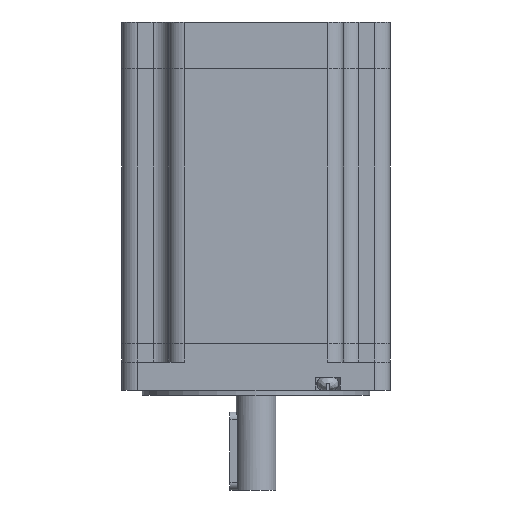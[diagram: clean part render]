
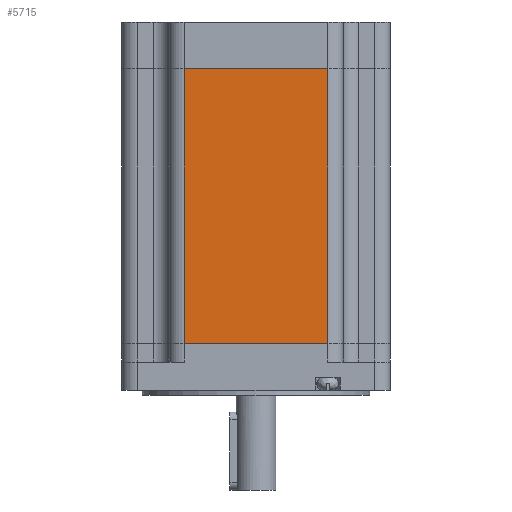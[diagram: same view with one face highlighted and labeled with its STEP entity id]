
A CAD part, front view. The second image highlights one B-rep face of the part: STEP entity #5715.
In plain terms, the highlighted planar face has unit normal (0, -1, 0).
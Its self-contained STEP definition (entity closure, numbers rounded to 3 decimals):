
#228 = VECTOR ( 'NONE', #4582, 1000. ) ;
#267 = CARTESIAN_POINT ( 'NONE',  ( -9., -28.1, 0. ) ) ;
#327 = DIRECTION ( 'NONE',  ( 1., 0., 0. ) ) ;
#548 = VERTEX_POINT ( 'NONE', #1497 ) ;
#781 = DIRECTION ( 'NONE',  ( 0., 0., -1. ) ) ;
#1299 = LINE ( 'NONE', #5063, #2430 ) ;
#1329 = DIRECTION ( 'NONE',  ( 0., 1., 0. ) ) ;
#1364 = EDGE_LOOP ( 'NONE', ( #1613, #3328, #4721, #4950 ) ) ;
#1497 = CARTESIAN_POINT ( 'NONE',  ( 37., -28.1, 0. ) ) ;
#1613 = ORIENTED_EDGE ( 'NONE', *, *, #1624, .F. ) ;
#1624 = EDGE_CURVE ( 'NONE', #1750, #548, #4023, .T. ) ;
#1697 = CARTESIAN_POINT ( 'NONE',  ( -9., -28.1, 0. ) ) ;
#1709 = LINE ( 'NONE', #3189, #5378 ) ;
#1750 = VERTEX_POINT ( 'NONE', #5788 ) ;
#1784 = CARTESIAN_POINT ( 'NONE',  ( -9., -28.1, 88. ) ) ;
#1967 = CARTESIAN_POINT ( 'NONE',  ( 37., -28.1, 88. ) ) ;
#2302 = CARTESIAN_POINT ( 'NONE',  ( -9., -28.1, 88. ) ) ;
#2430 = VECTOR ( 'NONE', #4628, 1000. ) ;
#2469 = FACE_OUTER_BOUND ( 'NONE', #1364, .T. ) ;
#2773 = EDGE_CURVE ( 'NONE', #4434, #3041, #1299, .T. ) ;
#3041 = VERTEX_POINT ( 'NONE', #2302 ) ;
#3189 = CARTESIAN_POINT ( 'NONE',  ( 37., -28.1, 88. ) ) ;
#3224 = PLANE ( 'NONE',  #5955 ) ;
#3328 = ORIENTED_EDGE ( 'NONE', *, *, #5373, .F. ) ;
#3517 = EDGE_CURVE ( 'NONE', #548, #4434, #5316, .T. ) ;
#3877 = VECTOR ( 'NONE', #781, 1000. ) ;
#4023 = LINE ( 'NONE', #1967, #3877 ) ;
#4434 = VERTEX_POINT ( 'NONE', #1697 ) ;
#4582 = DIRECTION ( 'NONE',  ( -1., 0., 0. ) ) ;
#4628 = DIRECTION ( 'NONE',  ( 0., 0., 1. ) ) ;
#4669 = DIRECTION ( 'NONE',  ( 1., 0., 0. ) ) ;
#4721 = ORIENTED_EDGE ( 'NONE', *, *, #2773, .F. ) ;
#4950 = ORIENTED_EDGE ( 'NONE', *, *, #3517, .F. ) ;
#5063 = CARTESIAN_POINT ( 'NONE',  ( -9., -28.1, 88. ) ) ;
#5316 = LINE ( 'NONE', #267, #228 ) ;
#5373 = EDGE_CURVE ( 'NONE', #3041, #1750, #1709, .T. ) ;
#5378 = VECTOR ( 'NONE', #327, 1000. ) ;
#5715 = ADVANCED_FACE ( 'NONE', ( #2469 ), #3224, .F. ) ;
#5788 = CARTESIAN_POINT ( 'NONE',  ( 37., -28.1, 88. ) ) ;
#5955 = AXIS2_PLACEMENT_3D ( 'NONE', #1784, #1329, #4669 ) ;
